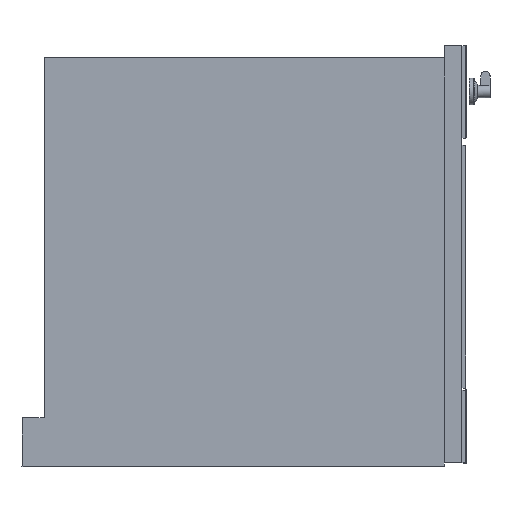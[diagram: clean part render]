
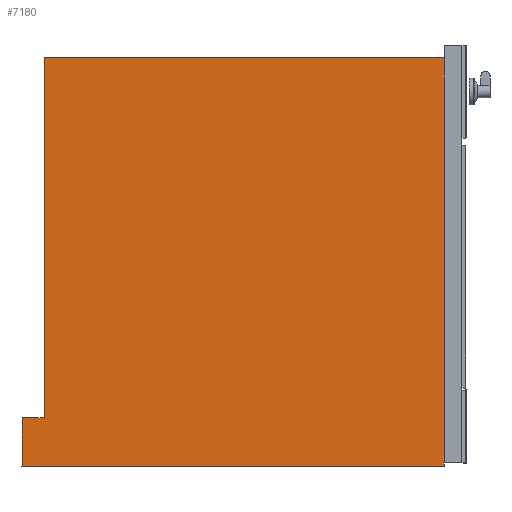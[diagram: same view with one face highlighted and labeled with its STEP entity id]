
A CAD part, left-side view. The second image highlights one B-rep face of the part: STEP entity #7180.
In plain terms, the highlighted planar face has unit normal (-1, 0, 0).
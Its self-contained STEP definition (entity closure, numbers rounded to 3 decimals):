
#479=LINE('',#10356,#984);
#494=LINE('',#10386,#999);
#495=LINE('',#10388,#1000);
#496=LINE('',#10390,#1001);
#497=LINE('',#10392,#1002);
#498=LINE('',#10394,#1003);
#499=LINE('',#10395,#1004);
#984=VECTOR('',#8436,1000.);
#999=VECTOR('',#8459,1000.);
#1000=VECTOR('',#8462,1000.);
#1001=VECTOR('',#8463,1000.);
#1002=VECTOR('',#8464,1000.);
#1003=VECTOR('',#8465,1000.);
#1004=VECTOR('',#8466,1000.);
#1342=PLANE('',#7559);
#2125=ORIENTED_EDGE('',*,*,#3275,.F.);
#2126=ORIENTED_EDGE('',*,*,#3276,.F.);
#2127=ORIENTED_EDGE('',*,*,#3277,.T.);
#2128=ORIENTED_EDGE('',*,*,#3278,.T.);
#2129=ORIENTED_EDGE('',*,*,#3279,.T.);
#2130=ORIENTED_EDGE('',*,*,#3260,.T.);
#2131=ORIENTED_EDGE('',*,*,#3280,.F.);
#3260=EDGE_CURVE('',#3903,#3902,#479,.T.);
#3275=EDGE_CURVE('',#3913,#3910,#494,.T.);
#3276=EDGE_CURVE('',#3914,#3913,#495,.T.);
#3277=EDGE_CURVE('',#3914,#3915,#496,.T.);
#3278=EDGE_CURVE('',#3915,#3916,#497,.T.);
#3279=EDGE_CURVE('',#3916,#3903,#498,.T.);
#3280=EDGE_CURVE('',#3910,#3902,#499,.T.);
#3902=VERTEX_POINT('',#10355);
#3903=VERTEX_POINT('',#10357);
#3910=VERTEX_POINT('',#10379);
#3913=VERTEX_POINT('',#10385);
#3914=VERTEX_POINT('',#10389);
#3915=VERTEX_POINT('',#10391);
#3916=VERTEX_POINT('',#10393);
#4485=EDGE_LOOP('',(#2125,#2126,#2127,#2128,#2129,#2130,#2131));
#4841=FACE_BOUND('',#4485,.T.);
#7180=ADVANCED_FACE('',(#4841),#1342,.T.);
#7559=AXIS2_PLACEMENT_3D('',#10387,#8460,#8461);
#8436=DIRECTION('',(0.,0.,-1.));
#8459=DIRECTION('',(0.,-0.009,1.));
#8460=DIRECTION('',(-1.,0.,0.));
#8461=DIRECTION('',(0.,-1.,0.));
#8462=DIRECTION('',(0.,1.,0.));
#8463=DIRECTION('',(0.,0.,1.));
#8464=DIRECTION('',(0.,0.,1.));
#8465=DIRECTION('',(0.,1.,0.));
#8466=DIRECTION('',(0.,-1.,0.));
#10355=CARTESIAN_POINT('',(-280.,234.033,-68.));
#10356=CARTESIAN_POINT('',(-280.,234.033,127.299));
#10357=CARTESIAN_POINT('',(-280.,234.033,322.599));
#10379=CARTESIAN_POINT('',(-280.,257.587,-68.));
#10385=CARTESIAN_POINT('',(-280.,258.049,-121.));
#10386=CARTESIAN_POINT('',(-280.,258.049,-121.));
#10387=CARTESIAN_POINT('',(-280.,0.,0.));
#10388=CARTESIAN_POINT('',(-280.,29.15,-121.));
#10389=CARTESIAN_POINT('',(-280.,-199.75,-121.));
#10390=CARTESIAN_POINT('',(-280.,-199.75,0.));
#10391=CARTESIAN_POINT('',(-280.,-199.75,-116.925));
#10392=CARTESIAN_POINT('',(-280.,-199.75,0.));
#10393=CARTESIAN_POINT('',(-280.,-199.75,322.599));
#10394=CARTESIAN_POINT('',(-280.,27.214,322.599));
#10395=CARTESIAN_POINT('',(-280.,445.588,-68.));
